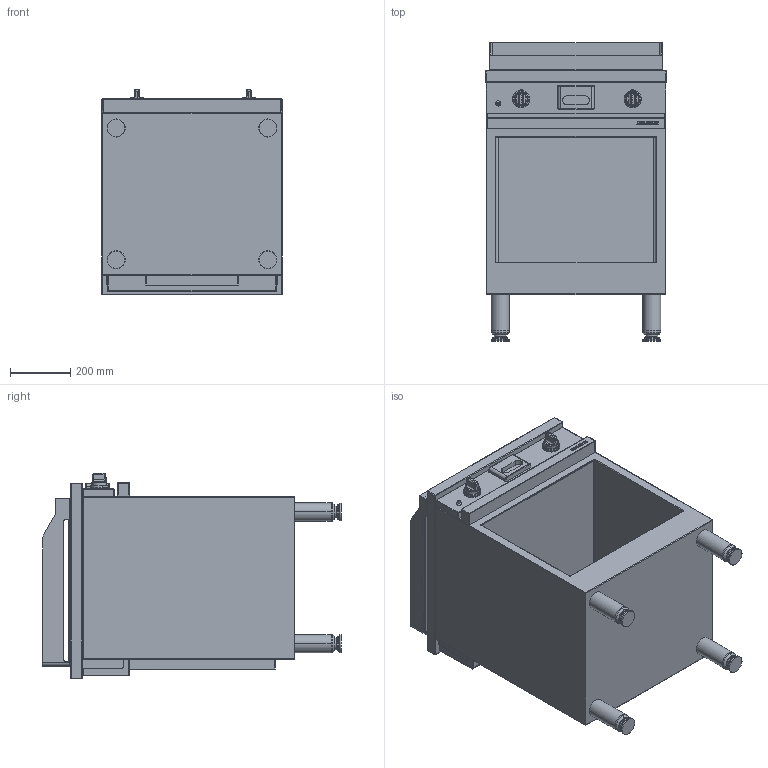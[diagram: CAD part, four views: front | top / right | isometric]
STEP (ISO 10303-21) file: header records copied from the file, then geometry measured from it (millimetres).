
FILE_DESCRIPTION((''),'2;1');
FILE_NAME('CMG610SLRC_EXPORT_STEP_ASM','2017-11-22T',('r.avril'),(''),'PRO/ENGINEER BY PARAMETRIC TECHNOLOGY CORPORATION, 2014200','PRO/ENGINEER BY PARAMETRIC TECHNOLOGY CORPORATION, 2014200','');
FILE_SCHEMA(('AP203_CONFIGURATION_CONTROLLED_3D_DESIGN_OF_MECHANICAL_PARTS_AND_ASSEMBLIES_MIM_LF { 1 0 10303 403 2 1 2 }'));
Length unit declared in the file: millimetre
Products named in the file (11): MODULES_AMB_600_EXPORT_STEP; TABLE_610_GRILLADE; TABLE_610_GRILLADE_ASM; ALLUMEUR_EXPORT_STEP; TIROIR_GRILLADE_EXPORT_STEP; MANETTE_AMB_EXPORT_STEP; CEINTURE_PLAQUE_GRILLADE_600; 50288900; 50293100; 65070010_ASM; CMG610SLRC_EXPORT_STEP_ASM
Assembly tree (11 placements, depth 3):
  CMG610SLRC_EXPORT_STEP_ASM
    MODULES_AMB_600_EXPORT_STEP
    TABLE_610_GRILLADE_ASM
      TABLE_610_GRILLADE
    ALLUMEUR_EXPORT_STEP
    TIROIR_GRILLADE_EXPORT_STEP
    MANETTE_AMB_EXPORT_STEP  x2
    65070010_ASM
      CEINTURE_PLAQUE_GRILLADE_600
      50288900
      50293100
Bounding box: 600 x 992.34 x 682.5 mm (x, y, z)
Volume: 81710162.4 mm3; surface area: 6170662.3 mm2
Topology: 17 solids, 43 shells, 759 faces, 2471 edges, 2020 vertices
Faces by surface type: plane 260, cylinder 245, cone 114, torus 76, sphere 40, bspline 24
Entity records: 34109 total; most frequent: CARTESIAN_POINT 8368, DIRECTION 4181, ORIENTED_EDGE 3740, EDGE_CURVE 2111, AXIS2_PLACEMENT_3D 1487, VERTEX_POINT 1477, VECTOR 1174, LINE 1174
